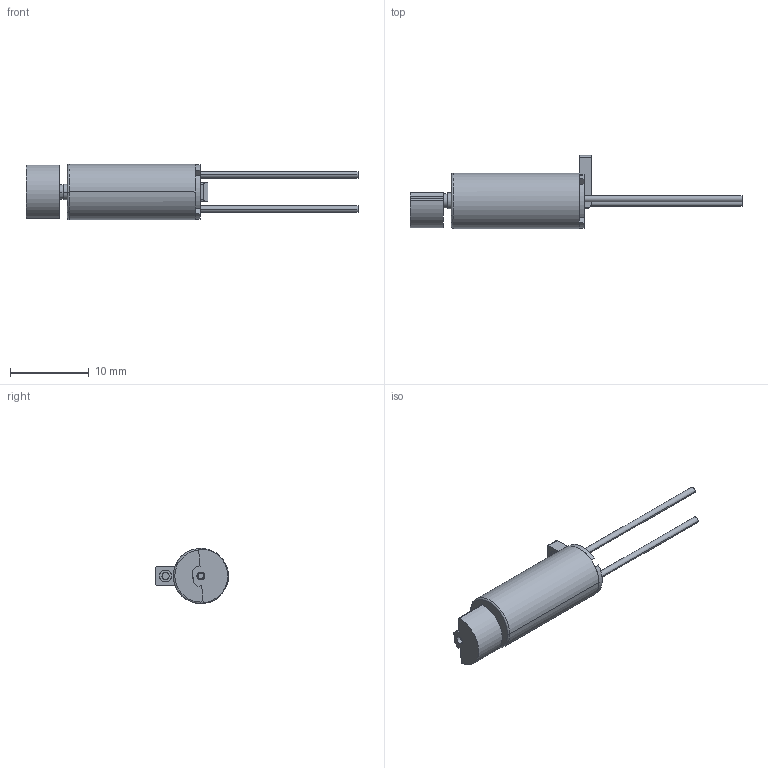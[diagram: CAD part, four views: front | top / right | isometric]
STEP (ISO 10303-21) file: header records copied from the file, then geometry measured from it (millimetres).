
FILE_DESCRIPTION(('FreeCAD Model'),'2;1');
FILE_NAME('Open CASCADE Shape Model','2024-09-11T14:41:18',(''),(''), 'Open CASCADE STEP processor 7.6','FreeCAD','Unknown');
FILE_SCHEMA(('AUTOMOTIVE_DESIGN { 1 0 10303 214 1 1 1 1 }'));
Length unit declared in the file: millimetre
Products named in the file (13): VZ7AV2K0760001L; ASM0001_ASM_6_ASM; 00_3; 00_2; 00_1-1790; 0005_ASM_1_ASM; _0002_1; 00_ASM_2_ASM; PRT0001_1; 000_2; 000_1; 7050001_2; TD1000_2
Assembly tree (12 placements, depth 4):
  VZ7AV2K0760001L
    ASM0001_ASM_6_ASM
      00_3
      00_2
      00_1-1790
      0005_ASM_1_ASM
        _0002_1
      00_ASM_2_ASM
        PRT0001_1
        000_2
        000_1
      7050001_2
      TD1000_2
Bounding box: 42.05 x 9.25 x 7 mm (x, y, z)
Volume: 324.6 mm3; surface area: 1367.2 mm2
Topology: 9 solids, 9 shells, 272 faces, 768 edges, 523 vertices
Faces by surface type: plane 133, cylinder 97, cone 22, torus 20
Entity records: 9376 total; most frequent: DIRECTION 1668, CARTESIAN_POINT 1654, ORIENTED_EDGE 1536, EDGE_CURVE 768, AXIS2_PLACEMENT_3D 633, VERTEX_POINT 523, LINE 402, VECTOR 402
